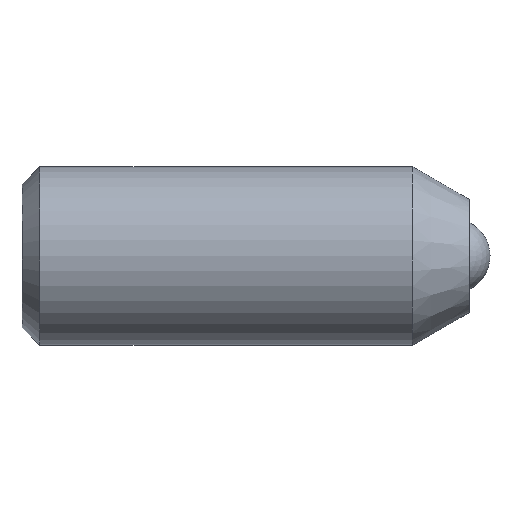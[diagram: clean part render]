
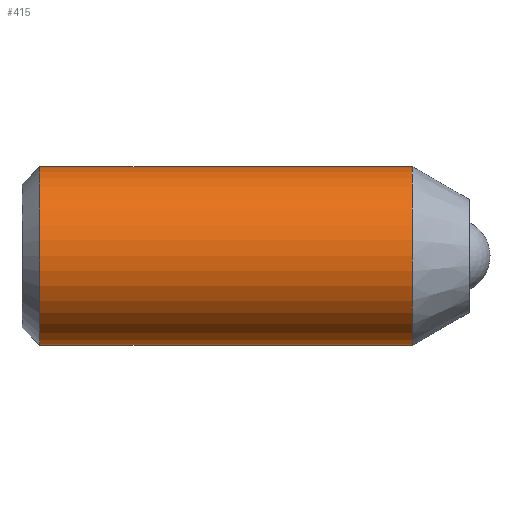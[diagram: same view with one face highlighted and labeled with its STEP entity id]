
A CAD part, top view. The second image highlights one B-rep face of the part: STEP entity #415.
In plain terms, the highlighted cylindrical face has radius 3 mm (diameter 6 mm), a partial arc.
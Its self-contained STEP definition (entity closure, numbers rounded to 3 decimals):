
#27 = EDGE_CURVE ( 'NONE', #655, #594, #662, .T. ) ;
#28 = FACE_OUTER_BOUND ( 'NONE', #316, .T. ) ;
#38 = DIRECTION ( 'NONE',  ( 1., 0., 0. ) ) ;
#68 = DIRECTION ( 'NONE',  ( 1., 0., 0. ) ) ;
#116 = AXIS2_PLACEMENT_3D ( 'NONE', #250, #38, #194 ) ;
#127 = EDGE_CURVE ( 'NONE', #474, #655, #686, .T. ) ;
#142 = AXIS2_PLACEMENT_3D ( 'NONE', #342, #347, #288 ) ;
#151 = EDGE_CURVE ( 'NONE', #382, #594, #433, .T. ) ;
#167 = VECTOR ( 'NONE', #258, 1000. ) ;
#190 = ORIENTED_EDGE ( 'NONE', *, *, #127, .F. ) ;
#194 = DIRECTION ( 'NONE',  ( 0., 1., 0. ) ) ;
#232 = CARTESIAN_POINT ( 'NONE',  ( -15.1, 3., 0. ) ) ;
#235 = DIRECTION ( 'NONE',  ( 0., 1., 0. ) ) ;
#250 = CARTESIAN_POINT ( 'NONE',  ( 0., 0., 0. ) ) ;
#258 = DIRECTION ( 'NONE',  ( 1., 0., 0. ) ) ;
#276 = CIRCLE ( 'NONE', #142, 3. ) ;
#279 = AXIS2_PLACEMENT_3D ( 'NONE', #568, #68, #235 ) ;
#288 = DIRECTION ( 'NONE',  ( 0., 1., 0. ) ) ;
#315 = CARTESIAN_POINT ( 'NONE',  ( 0., 3., 0. ) ) ;
#316 = EDGE_LOOP ( 'NONE', ( #501, #436, #495, #190 ) ) ;
#342 = CARTESIAN_POINT ( 'NONE',  ( -15.1, 0., 0. ) ) ;
#347 = DIRECTION ( 'NONE',  ( 1., 0., 0. ) ) ;
#382 = VERTEX_POINT ( 'NONE', #460 ) ;
#403 = CARTESIAN_POINT ( 'NONE',  ( -2.605, -3., 0. ) ) ;
#415 = ADVANCED_FACE ( 'NONE', ( #28 ), #533, .T. ) ;
#425 = CARTESIAN_POINT ( 'NONE',  ( 0., -3., 0. ) ) ;
#433 = LINE ( 'NONE', #425, #461 ) ;
#436 = ORIENTED_EDGE ( 'NONE', *, *, #151, .T. ) ;
#460 = CARTESIAN_POINT ( 'NONE',  ( -15.1, -3., 0. ) ) ;
#461 = VECTOR ( 'NONE', #632, 1000. ) ;
#474 = VERTEX_POINT ( 'NONE', #232 ) ;
#495 = ORIENTED_EDGE ( 'NONE', *, *, #27, .F. ) ;
#501 = ORIENTED_EDGE ( 'NONE', *, *, #691, .T. ) ;
#533 = CYLINDRICAL_SURFACE ( 'NONE', #116, 3. ) ;
#568 = CARTESIAN_POINT ( 'NONE',  ( -2.605, 0., 0. ) ) ;
#594 = VERTEX_POINT ( 'NONE', #403 ) ;
#632 = DIRECTION ( 'NONE',  ( 1., 0., 0. ) ) ;
#654 = CARTESIAN_POINT ( 'NONE',  ( -2.605, 3., 0. ) ) ;
#655 = VERTEX_POINT ( 'NONE', #654 ) ;
#662 = CIRCLE ( 'NONE', #279, 3. ) ;
#686 = LINE ( 'NONE', #315, #167 ) ;
#691 = EDGE_CURVE ( 'NONE', #474, #382, #276, .T. ) ;
